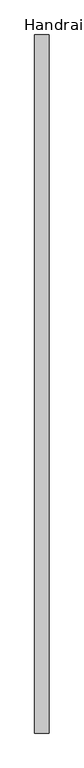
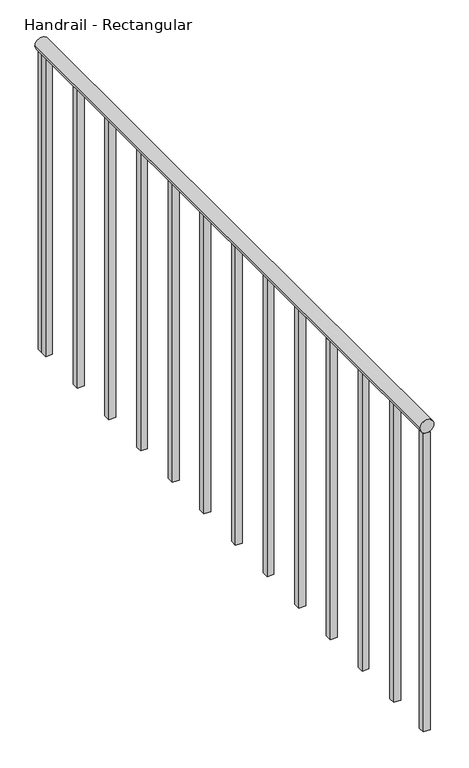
"""IFC4 building model written with IfcOpenShell, lengths in millimetres: railing geometry, Handrail - Rectangular."""

from ifc_helpers import new_model, si_unit, point, frame, frame_2d, origin, place, context, project, spatial, polyline, circle_curve, trimmed, segment, composite_curve, outline, extrude, source, transform, mapped, element, save


def handrail_rectangular_e91a7204(model_context):
    return source(origin(), model_context, "Body", "SweptSolid", [
        extrude(outline(composite_curve([segment(trimmed(circle_curve(frame_2d((3943.35, -32167.4839563)), 19.05), [point((3943.35, -32186.5339563))], [point((3943.35, -32148.4339563))], False, "CARTESIAN"), True, "CONTINUOUS"), segment(trimmed(circle_curve(frame_2d((3943.35, -32167.4839563)), 19.05), [point((3943.35, -32148.4339563))], [point((3943.35, -32186.5339563))], False, "CARTESIAN"), True, "CONTINUOUS")], self_intersect=False)), frame((0.0, -30041.3683133, 0.0), z_axis=(0.0, 1.0, 0.0), x_axis=(0.0, 0.0, 1.0)), (0.0, 0.0, 1.0), 1854.2),
        extrude(outline(polyline([(-32157.9589563, -28222.0933133), (-32177.0089563, -28222.0933133), (-32177.0089563, -28203.0433133), (-32157.9589563, -28203.0433133), (-32157.9589563, -28222.0933133)])), frame((0.0, 0.0, 3048.0), z_axis=(0.0, 0.0, 1.0), x_axis=(1.0, 0.0, 0.0)), (0.0, 0.0, 1.0), 876.3),
        extrude(outline(polyline([(-32157.9589563, -28374.4933133), (-32177.0089563, -28374.4933133), (-32177.0089563, -28355.4433133), (-32157.9589563, -28355.4433133), (-32157.9589563, -28374.4933133)])), frame((0.0, 0.0, 3048.0), z_axis=(0.0, 0.0, 1.0), x_axis=(1.0, 0.0, 0.0)), (0.0, 0.0, 1.0), 876.3),
        extrude(outline(polyline([(-32157.9589563, -28526.8933133), (-32177.0089563, -28526.8933133), (-32177.0089563, -28507.8433133), (-32157.9589563, -28507.8433133), (-32157.9589563, -28526.8933133)])), frame((0.0, 0.0, 3048.0), z_axis=(0.0, 0.0, 1.0), x_axis=(1.0, 0.0, 0.0)), (0.0, 0.0, 1.0), 876.3),
        extrude(outline(polyline([(-32157.9589563, -28679.2933133), (-32177.0089563, -28679.2933133), (-32177.0089563, -28660.2433133), (-32157.9589563, -28660.2433133), (-32157.9589563, -28679.2933133)])), frame((0.0, 0.0, 3048.0), z_axis=(0.0, 0.0, 1.0), x_axis=(1.0, 0.0, 0.0)), (0.0, 0.0, 1.0), 876.3),
        extrude(outline(polyline([(-32157.9589563, -28831.6933133), (-32177.0089563, -28831.6933133), (-32177.0089563, -28812.6433133), (-32157.9589563, -28812.6433133), (-32157.9589563, -28831.6933133)])), frame((0.0, 0.0, 3048.0), z_axis=(0.0, 0.0, 1.0), x_axis=(1.0, 0.0, 0.0)), (0.0, 0.0, 1.0), 876.3),
        extrude(outline(polyline([(-32157.9589563, -28984.0933133), (-32177.0089563, -28984.0933133), (-32177.0089563, -28965.0433133), (-32157.9589563, -28965.0433133), (-32157.9589563, -28984.0933133)])), frame((0.0, 0.0, 3048.0), z_axis=(0.0, 0.0, 1.0), x_axis=(1.0, 0.0, 0.0)), (0.0, 0.0, 1.0), 876.3),
        extrude(outline(polyline([(-32157.9589563, -29136.4933133), (-32177.0089563, -29136.4933133), (-32177.0089563, -29117.4433133), (-32157.9589563, -29117.4433133), (-32157.9589563, -29136.4933133)])), frame((0.0, 0.0, 3048.0), z_axis=(0.0, 0.0, 1.0), x_axis=(1.0, 0.0, 0.0)), (0.0, 0.0, 1.0), 876.3),
        extrude(outline(polyline([(-32157.9589563, -29288.8933133), (-32177.0089563, -29288.8933133), (-32177.0089563, -29269.8433133), (-32157.9589563, -29269.8433133), (-32157.9589563, -29288.8933133)])), frame((0.0, 0.0, 3048.0), z_axis=(0.0, 0.0, 1.0), x_axis=(1.0, 0.0, 0.0)), (0.0, 0.0, 1.0), 876.3),
        extrude(outline(polyline([(-32157.9589563, -29441.2933133), (-32177.0089563, -29441.2933133), (-32177.0089563, -29422.2433133), (-32157.9589563, -29422.2433133), (-32157.9589563, -29441.2933133)])), frame((0.0, 0.0, 3048.0), z_axis=(0.0, 0.0, 1.0), x_axis=(1.0, 0.0, 0.0)), (0.0, 0.0, 1.0), 876.3),
        extrude(outline(polyline([(-32157.9589563, -29593.6933133), (-32177.0089563, -29593.6933133), (-32177.0089563, -29574.6433133), (-32157.9589563, -29574.6433133), (-32157.9589563, -29593.6933133)])), frame((0.0, 0.0, 3048.0), z_axis=(0.0, 0.0, 1.0), x_axis=(1.0, 0.0, 0.0)), (0.0, 0.0, 1.0), 876.3),
        extrude(outline(polyline([(-32157.9589563, -29746.0933133), (-32177.0089563, -29746.0933133), (-32177.0089563, -29727.0433133), (-32157.9589563, -29727.0433133), (-32157.9589563, -29746.0933133)])), frame((0.0, 0.0, 3048.0), z_axis=(0.0, 0.0, 1.0), x_axis=(1.0, 0.0, 0.0)), (0.0, 0.0, 1.0), 876.3),
        extrude(outline(polyline([(-32157.9589563, -29898.4933133), (-32177.0089563, -29898.4933133), (-32177.0089563, -29879.4433133), (-32157.9589563, -29879.4433133), (-32157.9589563, -29898.4933133)])), frame((0.0, 0.0, 3048.0), z_axis=(0.0, 0.0, 1.0), x_axis=(1.0, 0.0, 0.0)), (0.0, 0.0, 1.0), 876.3),
        extrude(outline(polyline([(-32157.9589563, -28206.2183133), (-32177.0089563, -28206.2183133), (-32177.0089563, -28187.1683133), (-32157.9589563, -28187.1683133), (-32157.9589563, -28206.2183133)])), frame((0.0, 0.0, 3048.0), z_axis=(0.0, 0.0, 1.0), x_axis=(1.0, 0.0, 0.0)), (0.0, 0.0, 1.0), 876.3),
        extrude(outline(polyline([(-32157.9589563, -30041.3683133), (-32177.0089563, -30041.3683133), (-32177.0089563, -30022.3183133), (-32157.9589563, -30022.3183133), (-32157.9589563, -30041.3683133)])), frame((0.0, 0.0, 3048.0), z_axis=(0.0, 0.0, 1.0), x_axis=(1.0, 0.0, 0.0)), (0.0, 0.0, 1.0), 876.3),
    ])


if __name__ == "__main__":
    model = new_model("IFC4")
    model_context = context("Model", 3, world=origin())
    ifc_project = project(units=[si_unit("LENGTHUNIT", "METRE", prefix="MILLI")], contexts=[model_context])
    site = spatial("IfcSite", under=ifc_project)
    building = spatial("IfcBuilding", under=site)
    placement = place(None, origin())
    handrail_rectangular_shape = handrail_rectangular_e91a7204(model_context)
    element("IfcRailing", 1, ObjectType="Handrail - Rectangular", at=placement, inside=building, context=model_context, shape_type="MappedRepresentation", body=[
        mapped(handrail_rectangular_shape, transform((0.0, 0.0, 0.0), x_axis=(1.0, 0.0, 0.0), y_axis=(0.0, 1.0, 0.0), z_axis=(0.0, 0.0, 1.0))),
    ])
    save(model, "model.ifc")
